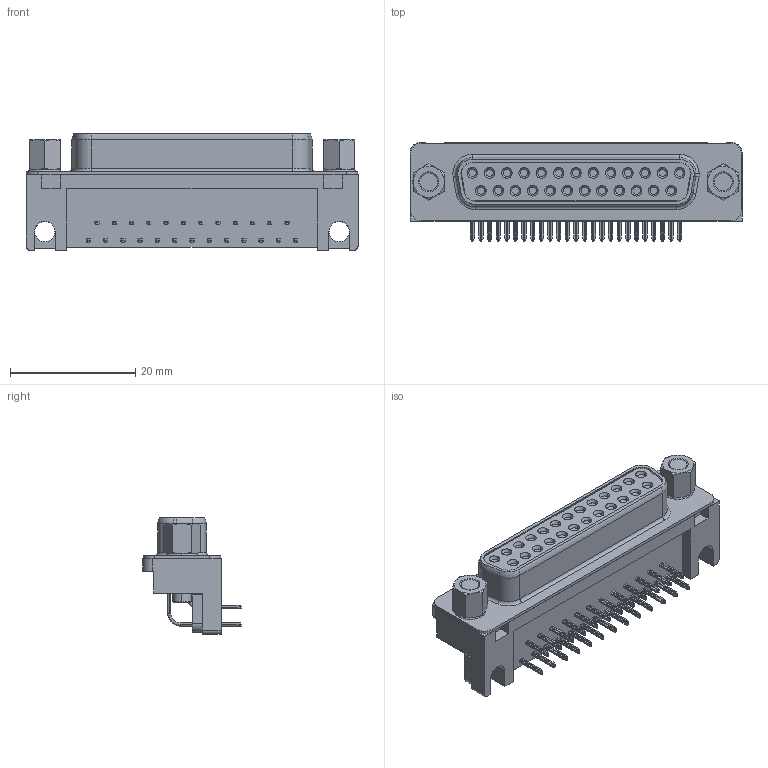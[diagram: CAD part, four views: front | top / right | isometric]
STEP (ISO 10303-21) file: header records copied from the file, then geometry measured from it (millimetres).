
FILE_DESCRIPTION (( 'STEP AP203' ), '1' );
FILE_NAME ('17LE-13250-27(D4CD)-FA.STEP', '2022-01-31T04:30:48', ( '' ), ( '' ), 'SwSTEP 2.0', 'SolidWorks 2018', '' );
FILE_SCHEMA (( 'CONFIG_CONTROL_DESIGN' ));
Length unit declared in the file: millimetre
Products named in the file (1): 17LE-13250-27(D4CD)-FA
Bounding box: 53.04 x 15.7 x 18.67 mm (x, y, z)
Volume: 5875.7 mm3; surface area: 6047.7 mm2
Topology: 1 solids, 5 shells, 1438 faces, 3799 edges, 2430 vertices
Faces by surface type: plane 696, cylinder 521, torus 150, cone 71
Entity records: 45448 total; most frequent: CARTESIAN_POINT 8956, DIRECTION 7783, ORIENTED_EDGE 7598, EDGE_CURVE 3799, AXIS2_PLACEMENT_3D 2733, VERTEX_POINT 2430, LINE 2317, VECTOR 2317
